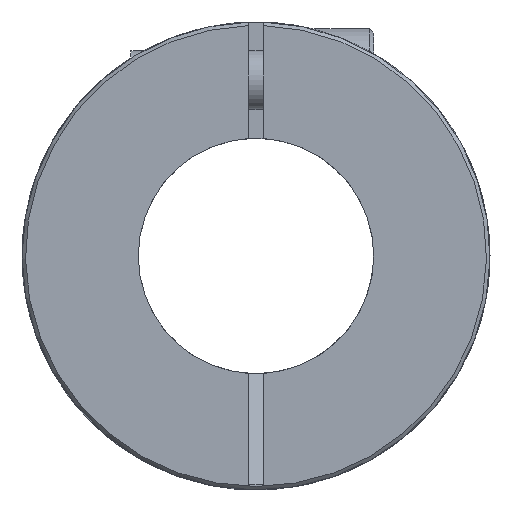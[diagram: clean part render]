
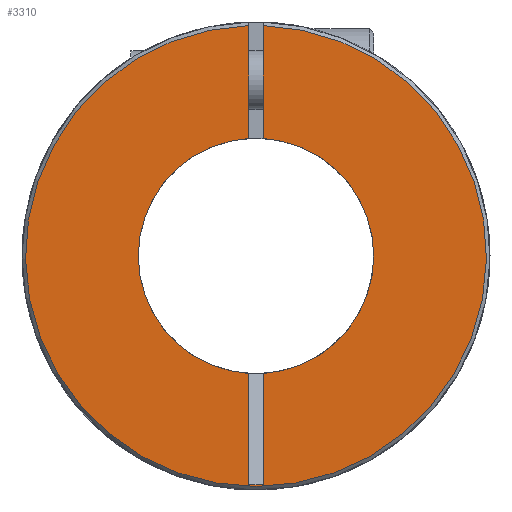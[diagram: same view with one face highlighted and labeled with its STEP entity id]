
A CAD part, front view. The second image highlights one B-rep face of the part: STEP entity #3310.
In plain terms, the highlighted planar face has unit normal (0, -1, 0).
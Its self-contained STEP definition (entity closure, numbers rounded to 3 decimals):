
#1=DIRECTION('',(0.,0.,-1.));
#2=VECTOR('',#1,7.668);
#3=CARTESIAN_POINT('',(-0.5,-28.6,15.652));
#4=LINE('',#3,#2);
#5=CARTESIAN_POINT('',(0.,-28.6,0.));
#6=DIRECTION('',(0.,1.,0.));
#7=DIRECTION('',(-1.,0.,0.));
#8=AXIS2_PLACEMENT_3D('',#5,#6,#7);
#10=CARTESIAN_POINT('',(0.,-28.6,0.));
#11=DIRECTION('',(0.,1.,0.));
#12=DIRECTION('',(-0.063,0.,-0.998));
#13=AXIS2_PLACEMENT_3D('',#10,#11,#12);
#15=DIRECTION('',(0.,0.,-1.));
#16=VECTOR('',#15,7.566);
#17=CARTESIAN_POINT('',(-0.5,-28.6,-7.984));
#18=LINE('',#17,#16);
#19=DIRECTION('',(1.,0.,0.));
#20=VECTOR('',#19,1.);
#21=CARTESIAN_POINT('',(-0.5,-28.6,-15.55));
#22=LINE('',#21,#20);
#23=DIRECTION('',(0.,0.,-1.));
#24=VECTOR('',#23,7.566);
#25=CARTESIAN_POINT('',(0.5,-28.6,-7.984));
#26=LINE('',#25,#24);
#27=DIRECTION('',(0.,0.,-1.));
#28=VECTOR('',#27,7.668);
#29=CARTESIAN_POINT('',(0.5,-28.6,15.652));
#30=LINE('',#29,#28);
#54=CARTESIAN_POINT('',(0.,-28.6,0.));
#55=DIRECTION('',(0.,1.,0.));
#56=DIRECTION('',(0.063,0.,0.998));
#57=AXIS2_PLACEMENT_3D('',#54,#55,#56);
#2799=CARTESIAN_POINT('',(0.,-28.6,0.));
#2800=DIRECTION('',(0.,-1.,0.));
#2801=DIRECTION('',(-0.032,0.,0.999));
#2802=AXIS2_PLACEMENT_3D('',#2799,#2800,#2801);
#2959=CARTESIAN_POINT('',(-8.,-28.6,0.));
#2960=VERTEX_POINT('',#2959);
#3034=CARTESIAN_POINT('',(-0.5,-28.6,-15.55));
#3036=VERTEX_POINT('',#3034);
#3038=CARTESIAN_POINT('',(0.5,-28.6,-15.55));
#3040=VERTEX_POINT('',#3038);
#3091=CARTESIAN_POINT('',(-0.5,-28.6,15.652));
#3092=CARTESIAN_POINT('',(-0.5,-28.6,7.984));
#3093=VERTEX_POINT('',#3091);
#3094=VERTEX_POINT('',#3092);
#3095=CARTESIAN_POINT('',(-0.5,-28.6,-7.984));
#3096=VERTEX_POINT('',#3095);
#3097=CARTESIAN_POINT('',(0.5,-28.6,15.652));
#3098=CARTESIAN_POINT('',(0.5,-28.6,7.984));
#3099=VERTEX_POINT('',#3097);
#3100=VERTEX_POINT('',#3098);
#3101=CARTESIAN_POINT('',(0.5,-28.6,-7.984));
#3102=VERTEX_POINT('',#3101);
#3285=CARTESIAN_POINT('',(0.,-28.6,0.));
#3286=DIRECTION('',(0.,1.,0.));
#3287=DIRECTION('',(1.,0.,0.));
#3288=AXIS2_PLACEMENT_3D('',#3285,#3286,#3287);
#3289=PLANE('',#3288);
#3291=ORIENTED_EDGE('',*,*,#3290,.T.);
#3293=ORIENTED_EDGE('',*,*,#3292,.F.);
#3295=ORIENTED_EDGE('',*,*,#3294,.F.);
#3297=ORIENTED_EDGE('',*,*,#3296,.T.);
#3299=ORIENTED_EDGE('',*,*,#3298,.T.);
#3301=ORIENTED_EDGE('',*,*,#3300,.F.);
#3303=ORIENTED_EDGE('',*,*,#3302,.F.);
#3305=ORIENTED_EDGE('',*,*,#3304,.F.);
#3307=ORIENTED_EDGE('',*,*,#3306,.F.);
#3308=EDGE_LOOP('',(#3291,#3293,#3295,#3297,#3299,#3301,#3303,#3305,#3307));
#3309=FACE_OUTER_BOUND('',#3308,.F.);
#3310=ADVANCED_FACE('',(#3309),#3289,.F.);
#9=CIRCLE('',#8,8.);
#14=CIRCLE('',#13,8.);
#58=CIRCLE('',#57,8.);
#2803=CIRCLE('',#2802,15.66);
#3290=EDGE_CURVE('',#3093,#3094,#4,.T.);
#3292=EDGE_CURVE('',#2960,#3094,#9,.T.);
#3294=EDGE_CURVE('',#3096,#2960,#14,.T.);
#3296=EDGE_CURVE('',#3096,#3036,#18,.T.);
#3298=EDGE_CURVE('',#3036,#3040,#22,.T.);
#3300=EDGE_CURVE('',#3102,#3040,#26,.T.);
#3302=EDGE_CURVE('',#3100,#3102,#58,.T.);
#3304=EDGE_CURVE('',#3099,#3100,#30,.T.);
#3306=EDGE_CURVE('',#3093,#3099,#2803,.T.);
